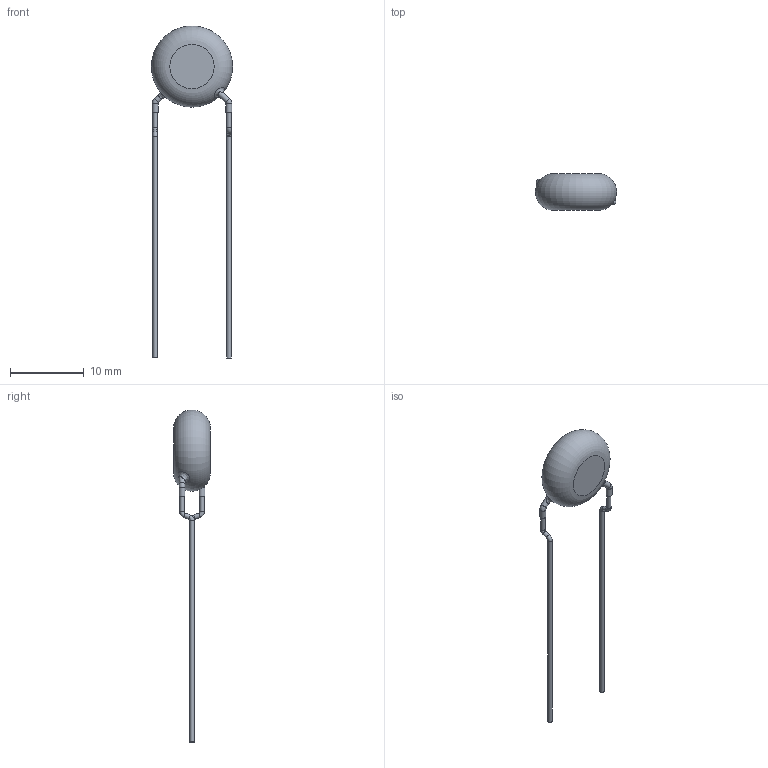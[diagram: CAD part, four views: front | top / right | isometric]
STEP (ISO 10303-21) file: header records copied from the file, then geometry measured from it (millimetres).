
FILE_DESCRIPTION((''),'2;1');
FILE_NAME('I:\Marketing\M6t1\3D-Models\Zchng-Werk-3\Upload for homepage\BCC\VY1-Compact\Y5U-10mm\VY1222M43Y5UC63V0\VY1222M43Y5UC63V0.stp','2015-09-01T11:47:39',('sherden'),(''),'Autodesk Inventor 2013','Autodesk Inventor 2013','');
FILE_SCHEMA(('CONFIG_CONTROL_DESIGN'));
Length unit declared in the file: millimetre
Products named in the file (1): VY1222M43Y5UC63V0
Bounding box: 10.99 x 5 x 45 mm (x, y, z)
Volume: 414.8 mm3; surface area: 426.9 mm2
Topology: 1 solids, 1 shells, 25 faces, 45 edges, 26 vertices
Faces by surface type: cylinder 10, torus 7, plane 6, bspline 2
Full cylindrical faces by diameter (mm): 0.6 x6, 0.8 x4
Entity records: 835 total; most frequent: CARTESIAN_POINT 358, DIRECTION 92, ORIENTED_EDGE 52, AXIS2_PLACEMENT_3D 46, EDGE_LOOP 46, EDGE_CURVE 26, STYLED_ITEM 26, FACE_OUTER_BOUND 25
